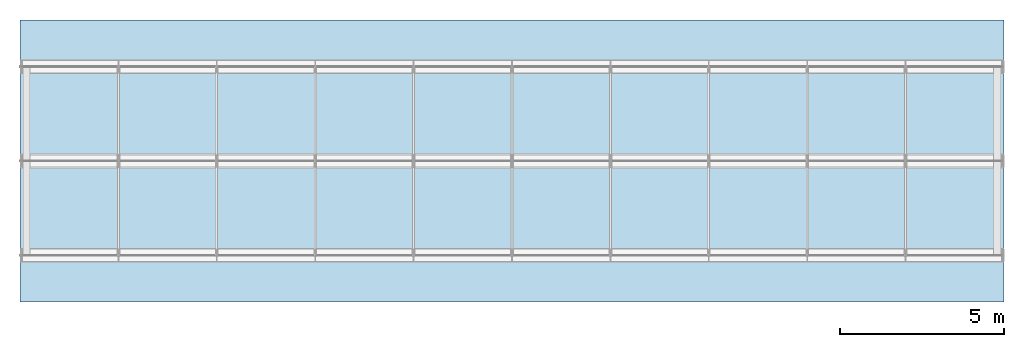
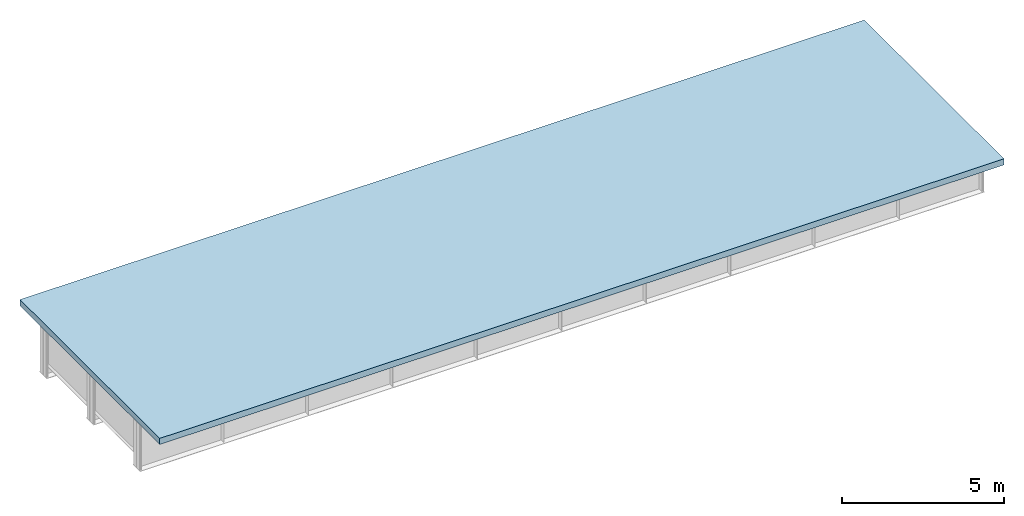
# One storey, part 7 of 10: 1 slab.
"""IFC4 building model written with IfcOpenShell, lengths in metres."""

import ifcopenshell
import ifcopenshell.guid

model = None  # the IFC model being written
_history = None  # IfcOwnerHistory: only IFC2X3 demands one
_inside = {}  # id of a spatial element -> (the spatial element, [elements in it])
_under = {}  # id of a project, library or spatial element -> (it, [spatial elements below it])
_declared = {}  # id of a project -> (the project, [libraries it declares])
_typed = {}  # id of a type object -> (the type object, [elements of that type])
_made_of = {}  # id of a material, layer set ... -> (it, [elements and type objects made of it])


def new_model(schema):
    """Start an empty IFC model of exactly this schema.

    Asked for "IFC4X3", IfcOpenShell would pick the latest addendum, in which some entities
    have other attributes; the version numbers below select the first issue.
    IFC2X3 requires an IfcOwnerHistory on every rooted entity: one is made here for all.
    """
    global model, _history
    if schema == "IFC4X3":
        model = ifcopenshell.file(schema_version=(4, 3, 0, 0))
    else:
        model = ifcopenshell.file(schema=schema)
    _inside.clear()
    _under.clear()
    _declared.clear()
    _typed.clear()
    _made_of.clear()
    _history = None
    if model.schema == "IFC2X3":
        org = make("IfcOrganization", Name="unknown")
        user = make(
            "IfcPersonAndOrganization",
            ThePerson=make("IfcPerson", FamilyName="unknown"),
            TheOrganization=org,
        )
        app = make(
            "IfcApplication",
            ApplicationDeveloper=org,
            Version="unknown",
            ApplicationFullName="unknown",
            ApplicationIdentifier="unknown",
        )
        _history = make(
            "IfcOwnerHistory",
            OwningUser=user,
            OwningApplication=app,
            ChangeAction="ADDED",
            CreationDate=0,
        )
    return model


def make(cls, **values):
    """One entity of the class cls with the attributes given. An attribute that is None is left unset."""
    return model.create_entity(
        cls, **{name: value for name, value in values.items() if value is not None}
    )


def rooted(cls, **values):
    """An entity with a GlobalId (a new one), such as an element, a storey or a relation."""
    return make(cls, GlobalId=ifcopenshell.guid.new(), OwnerHistory=_history, **values)


def si_unit(unit_type, name, prefix=None):
    """IfcSIUnit, for example si_unit("LENGTHUNIT", "METRE", prefix="MILLI")."""
    return make("IfcSIUnit", UnitType=unit_type, Prefix=prefix, Name=name)


def assignment(units):
    """IfcUnitAssignment: the units of a project."""
    return None if units is None else make("IfcUnitAssignment", Units=units)


def point(xyz):
    """IfcCartesianPoint."""
    return None if xyz is None else make("IfcCartesianPoint", Coordinates=xyz)


def direction(xyz):
    """IfcDirection."""
    return None if xyz is None else make("IfcDirection", DirectionRatios=xyz)


def frame(location, z_axis=None, x_axis=None):
    """IfcAxis2Placement3D, a coordinate frame: its origin and axes. An axis left out is left unset."""
    return make(
        "IfcAxis2Placement3D",
        Location=point(location),
        Axis=direction(z_axis),
        RefDirection=direction(x_axis),
    )


def origin():
    """The frame at (0, 0, 0) with its axes left unset."""
    return frame((0.0, 0.0, 0.0))


def origin_with_axes():
    """The frame at (0, 0, 0) with the z axis (0, 0, 1) and the x axis (1, 0, 0) written out."""
    return frame((0.0, 0.0, 0.0), z_axis=(0.0, 0.0, 1.0), x_axis=(1.0, 0.0, 0.0))


def place(relative_to, where):
    """IfcLocalPlacement: puts the frame where relative to a parent placement (None: the world)."""
    return make(
        "IfcLocalPlacement", PlacementRelTo=relative_to, RelativePlacement=where
    )


def context(
    kind, dimensions, precision=None, world=None, true_north=None, identifier=None
):
    """IfcGeometricRepresentationContext, for example the 3D "Model" context."""
    return make(
        "IfcGeometricRepresentationContext",
        ContextIdentifier=identifier,
        ContextType=kind,
        CoordinateSpaceDimension=dimensions,
        Precision=precision,
        WorldCoordinateSystem=world,
        TrueNorth=true_north,
    )


def subcontext(parent, identifier, kind, view, scale=None):
    """IfcGeometricRepresentationSubContext, for example "Body" below "Model"."""
    return make(
        "IfcGeometricRepresentationSubContext",
        ContextIdentifier=identifier,
        ContextType=kind,
        ParentContext=parent,
        TargetScale=scale,
        TargetView=view,
    )


def project(units=None, contexts=None):
    """IfcProject with its units and contexts."""
    return rooted(
        "IfcProject",
        Name="project",
        RepresentationContexts=contexts,
        UnitsInContext=assignment(units),
    )


def spatial(cls, under=None, at=None, **own):
    """A site, building, storey or space (cls), placed at a placement, below another one or the project."""
    s = rooted(cls, ObjectPlacement=at, **own)
    if under is not None:
        _under.setdefault(under.id(), (under, []))[1].append(s)
    return s


def polyline(points):
    """IfcPolyline through the points."""
    return make("IfcPolyline", Points=[point(p) for p in points])


def outline(outer, holes=None, kind="AREA"):
    """IfcArbitraryClosedProfileDef: a profile drawn as a closed curve; with holes, ...WithVoids."""
    if holes is None:
        return make("IfcArbitraryClosedProfileDef", ProfileType=kind, OuterCurve=outer)
    return make(
        "IfcArbitraryProfileDefWithVoids",
        ProfileType=kind,
        OuterCurve=outer,
        InnerCurves=holes,
    )


def extrude(swept, where, along, depth):
    """IfcExtrudedAreaSolid: the profile swept, set in the frame where, extruded along a direction by depth."""
    return make(
        "IfcExtrudedAreaSolid",
        SweptArea=swept,
        Position=where,
        ExtrudedDirection=direction(along),
        Depth=depth,
    )


def shape(context_of_items, identifier, shape_type, items):
    """IfcShapeRepresentation: the items that make up one representation, for example the "Body"."""
    return make(
        "IfcShapeRepresentation",
        ContextOfItems=context_of_items,
        RepresentationIdentifier=identifier,
        RepresentationType=shape_type,
        Items=items,
    )


def made_of(thing, what):
    """Note that an element or type object is made of a material, layer set ...; save() writes the relation."""
    if what is not None:
        _made_of.setdefault(what.id(), (what, []))[1].append(thing)
    return thing


def element(
    cls,
    number,
    at=None,
    inside=None,
    cuts=None,
    type_object=None,
    material=None,
    context=None,
    identifier="Body",
    shape_type=None,
    held_by="IfcProductDefinitionShape",
    body=None,
    shapes=None,
    **own,
):
    """One element of the class cls, such as IfcWall. Its Tag is "e" and its number.

    at: its placement. inside: the storey or other place that contains it. cuts: it is an
    opening in that element (IfcRelVoidsElement). A single representation is given by context,
    identifier, shape_type and body (its items); several are given by shapes. held_by: the class
    of the entity that holds the representations. save() writes the other relations.
    """
    e = rooted(cls, Tag="e%d" % number, ObjectPlacement=at, **own)
    if body is not None:
        shapes = [shape(context, identifier, shape_type, body)]
    if shapes is not None:
        e.Representation = make(held_by, Representations=shapes)
    if inside is not None:
        _inside.setdefault(inside.id(), (inside, []))[1].append(e)
    if cuts is not None:
        rooted(
            "IfcRelVoidsElement", RelatingBuildingElement=cuts, RelatedOpeningElement=e
        )
    if type_object is not None:
        _typed.setdefault(type_object.id(), (type_object, []))[1].append(e)
    return made_of(e, material)


def aggregate(whole, parts):
    """IfcRelAggregates: a whole, such as a stair, and the parts it consists of."""
    return rooted("IfcRelAggregates", RelatingObject=whole, RelatedObjects=parts)


def save(model, path):
    """Write the relations noted so far, then the file.

    IfcRelAggregates (storeys below a building ...), IfcRelContainedInSpatialStructure (elements
    in a storey), IfcRelDefinesByType, IfcRelAssociatesMaterial and IfcRelDeclares: one each for
    every whole, place, type object, material and project.
    """
    for whole, parts in _under.values():
        aggregate(whole, parts)
    for where, things in _inside.values():
        rooted(
            "IfcRelContainedInSpatialStructure",
            RelatedElements=things,
            RelatingStructure=where,
        )
    for kind, things in _typed.values():
        rooted("IfcRelDefinesByType", RelatedObjects=things, RelatingType=kind)
    for what, things in _made_of.values():
        rooted("IfcRelAssociatesMaterial", RelatedObjects=things, RelatingMaterial=what)
    for by, libraries in _declared.values():
        rooted("IfcRelDeclares", RelatingContext=by, RelatedDefinitions=libraries)
    model.write(path)


model = new_model("IFC4")

# Units and contexts
model_context = context("Model", 3, precision=1e-05, world=origin())
body_context = subcontext(model_context, "Body", "Model", "MODEL_VIEW")
ifc_project = project(units=[si_unit("LENGTHUNIT", "METRE"), si_unit("AREAUNIT", "SQUARE_METRE"), si_unit("VOLUMEUNIT", "CUBIC_METRE"), si_unit("PLANEANGLEUNIT", "RADIAN")], contexts=[model_context])

# Site, building, storey
site_placement = place(None, origin_with_axes())
site = spatial("IfcSite", under=ifc_project, at=site_placement, Name="Default Site")
building_placement = place(site_placement, origin_with_axes())
building = spatial("IfcBuilding", under=site, at=building_placement, Name="Bridge Structure")
storey_placement = place(building_placement, origin_with_axes())
storey = spatial("IfcBuildingStorey", under=building, at=storey_placement, Name="Superstructure")

# Slab
slab_placement = place(storey_placement, frame((0.0, 0.0, 0.8755000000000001), z_axis=(0.0, 0.0, 1.0), x_axis=(1.0, 0.0, 0.0)))
element("IfcSlab", 1, at=slab_placement, inside=storey, Name="Deck Slab", context=body_context, shape_type="SweptSolid", body=[
    extrude(outline(polyline([(0.0, -4.3), (30.0, -4.3), (30.0, 4.3), (0.0, 4.3), (0.0, -4.3)])), origin_with_axes(), (0.0, 0.0, 1.0), 0.23),
])

save(model, "model.ifc")
